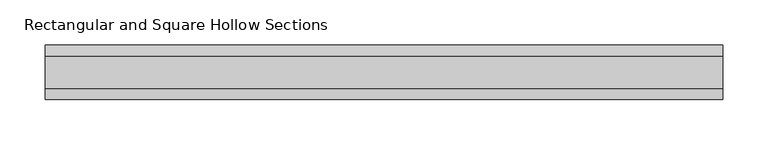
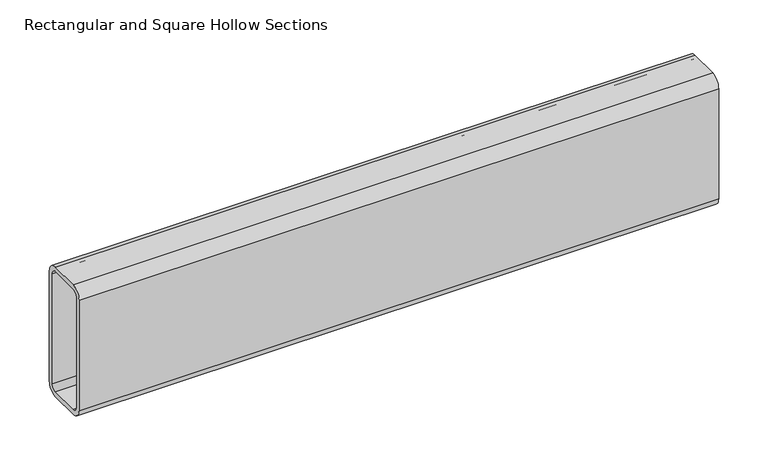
"""IFC4 building model written with IfcOpenShell, lengths in millimetres: beam geometry, Rectangular and Square Hollow Sections : TREC160x60x6."""

import ifcopenshell
import ifcopenshell.guid

model = None  # the IFC model being written
_history = None  # IfcOwnerHistory: only IFC2X3 demands one
_inside = {}  # id of a spatial element -> (the spatial element, [elements in it])
_under = {}  # id of a project, library or spatial element -> (it, [spatial elements below it])
_declared = {}  # id of a project -> (the project, [libraries it declares])
_typed = {}  # id of a type object -> (the type object, [elements of that type])
_made_of = {}  # id of a material, layer set ... -> (it, [elements and type objects made of it])


def new_model(schema):
    """Start an empty IFC model of exactly this schema.

    Asked for "IFC4X3", IfcOpenShell would pick the latest addendum, in which some entities
    have other attributes; the version numbers below select the first issue.
    IFC2X3 requires an IfcOwnerHistory on every rooted entity: one is made here for all.
    """
    global model, _history
    if schema == "IFC4X3":
        model = ifcopenshell.file(schema_version=(4, 3, 0, 0))
    else:
        model = ifcopenshell.file(schema=schema)
    _inside.clear()
    _under.clear()
    _declared.clear()
    _typed.clear()
    _made_of.clear()
    _history = None
    if model.schema == "IFC2X3":
        org = make("IfcOrganization", Name="unknown")
        user = make(
            "IfcPersonAndOrganization",
            ThePerson=make("IfcPerson", FamilyName="unknown"),
            TheOrganization=org,
        )
        app = make(
            "IfcApplication",
            ApplicationDeveloper=org,
            Version="unknown",
            ApplicationFullName="unknown",
            ApplicationIdentifier="unknown",
        )
        _history = make(
            "IfcOwnerHistory",
            OwningUser=user,
            OwningApplication=app,
            ChangeAction="ADDED",
            CreationDate=0,
        )
    return model


def make(cls, **values):
    """One entity of the class cls with the attributes given. An attribute that is None is left unset."""
    return model.create_entity(
        cls, **{name: value for name, value in values.items() if value is not None}
    )


def rooted(cls, **values):
    """An entity with a GlobalId (a new one), such as an element, a storey or a relation."""
    return make(cls, GlobalId=ifcopenshell.guid.new(), OwnerHistory=_history, **values)


def si_unit(unit_type, name, prefix=None):
    """IfcSIUnit, for example si_unit("LENGTHUNIT", "METRE", prefix="MILLI")."""
    return make("IfcSIUnit", UnitType=unit_type, Prefix=prefix, Name=name)


def assignment(units):
    """IfcUnitAssignment: the units of a project."""
    return None if units is None else make("IfcUnitAssignment", Units=units)


def point(xyz):
    """IfcCartesianPoint."""
    return None if xyz is None else make("IfcCartesianPoint", Coordinates=xyz)


def direction(xyz):
    """IfcDirection."""
    return None if xyz is None else make("IfcDirection", DirectionRatios=xyz)


def frame(location, z_axis=None, x_axis=None):
    """IfcAxis2Placement3D, a coordinate frame: its origin and axes. An axis left out is left unset."""
    return make(
        "IfcAxis2Placement3D",
        Location=point(location),
        Axis=direction(z_axis),
        RefDirection=direction(x_axis),
    )


def frame_2d(location, x_axis=None):
    """IfcAxis2Placement2D, a coordinate frame in the plane: its origin and x axis."""
    return make(
        "IfcAxis2Placement2D", Location=point(location), RefDirection=direction(x_axis)
    )


def origin():
    """The frame at (0, 0, 0) with its axes left unset."""
    return frame((0.0, 0.0, 0.0))


def place(relative_to, where):
    """IfcLocalPlacement: puts the frame where relative to a parent placement (None: the world)."""
    return make(
        "IfcLocalPlacement", PlacementRelTo=relative_to, RelativePlacement=where
    )


def context(
    kind, dimensions, precision=None, world=None, true_north=None, identifier=None
):
    """IfcGeometricRepresentationContext, for example the 3D "Model" context."""
    return make(
        "IfcGeometricRepresentationContext",
        ContextIdentifier=identifier,
        ContextType=kind,
        CoordinateSpaceDimension=dimensions,
        Precision=precision,
        WorldCoordinateSystem=world,
        TrueNorth=true_north,
    )


def project(units=None, contexts=None):
    """IfcProject with its units and contexts."""
    return rooted(
        "IfcProject",
        Name="project",
        RepresentationContexts=contexts,
        UnitsInContext=assignment(units),
    )


def spatial(cls, under=None, at=None, **own):
    """A site, building, storey or space (cls), placed at a placement, below another one or the project."""
    s = rooted(cls, ObjectPlacement=at, **own)
    if under is not None:
        _under.setdefault(under.id(), (under, []))[1].append(s)
    return s


def polyline(points):
    """IfcPolyline through the points."""
    return make("IfcPolyline", Points=[point(p) for p in points])


def circle_curve(where, radius):
    """IfcCircle in the frame where."""
    return make("IfcCircle", Position=where, Radius=radius)


def trimmed(basis, trim1, trim2, sense, master):
    """IfcTrimmedCurve: the piece of a basis curve between two trims."""
    return make(
        "IfcTrimmedCurve",
        BasisCurve=basis,
        Trim1=trim1,
        Trim2=trim2,
        SenseAgreement=sense,
        MasterRepresentation=master,
    )


def segment(curve, same_sense, transition):
    """IfcCompositeCurveSegment."""
    return make(
        "IfcCompositeCurveSegment",
        Transition=transition,
        SameSense=same_sense,
        ParentCurve=curve,
    )


def composite_curve(segments, self_intersect=None):
    """IfcCompositeCurve: segments joined end to end."""
    return make("IfcCompositeCurve", Segments=segments, SelfIntersect=self_intersect)


def outline(outer, holes=None, kind="AREA"):
    """IfcArbitraryClosedProfileDef: a profile drawn as a closed curve; with holes, ...WithVoids."""
    if holes is None:
        return make("IfcArbitraryClosedProfileDef", ProfileType=kind, OuterCurve=outer)
    return make(
        "IfcArbitraryProfileDefWithVoids",
        ProfileType=kind,
        OuterCurve=outer,
        InnerCurves=holes,
    )


def extrude(swept, where, along, depth):
    """IfcExtrudedAreaSolid: the profile swept, set in the frame where, extruded along a direction by depth."""
    return make(
        "IfcExtrudedAreaSolid",
        SweptArea=swept,
        Position=where,
        ExtrudedDirection=direction(along),
        Depth=depth,
    )


def shape(context_of_items, identifier, shape_type, items):
    """IfcShapeRepresentation: the items that make up one representation, for example the "Body"."""
    return make(
        "IfcShapeRepresentation",
        ContextOfItems=context_of_items,
        RepresentationIdentifier=identifier,
        RepresentationType=shape_type,
        Items=items,
    )


def source(mapping_origin, context_of_items, identifier, shape_type, items):
    """IfcRepresentationMap: a shape defined once, which mapped items show again and again."""
    return make(
        "IfcRepresentationMap",
        MappingOrigin=mapping_origin,
        MappedRepresentation=shape(context_of_items, identifier, shape_type, items),
    )


def transform(
    local_origin,
    x_axis=None,
    y_axis=None,
    z_axis=None,
    scale=None,
    scale2=None,
    scale3=None,
    uniform=True,
):
    """IfcCartesianTransformationOperator3D, or its non-uniform kind. x_axis, y_axis, z_axis: its Axis1, 2, 3."""
    if uniform:
        return make(
            "IfcCartesianTransformationOperator3D",
            Axis1=direction(x_axis),
            Axis2=direction(y_axis),
            LocalOrigin=point(local_origin),
            Scale=scale,
            Axis3=direction(z_axis),
        )
    return make(
        "IfcCartesianTransformationOperator3DnonUniform",
        Axis1=direction(x_axis),
        Axis2=direction(y_axis),
        LocalOrigin=point(local_origin),
        Scale=scale,
        Axis3=direction(z_axis),
        Scale2=scale2,
        Scale3=scale3,
    )


def mapped(mapping_source, mapping_target):
    """IfcMappedItem: shows the shape of a source again, moved by a transform."""
    return make(
        "IfcMappedItem", MappingSource=mapping_source, MappingTarget=mapping_target
    )


def made_of(thing, what):
    """Note that an element or type object is made of a material, layer set ...; save() writes the relation."""
    if what is not None:
        _made_of.setdefault(what.id(), (what, []))[1].append(thing)
    return thing


def element(
    cls,
    number,
    at=None,
    inside=None,
    cuts=None,
    type_object=None,
    material=None,
    context=None,
    identifier="Body",
    shape_type=None,
    held_by="IfcProductDefinitionShape",
    body=None,
    shapes=None,
    **own,
):
    """One element of the class cls, such as IfcWall. Its Tag is "e" and its number.

    at: its placement. inside: the storey or other place that contains it. cuts: it is an
    opening in that element (IfcRelVoidsElement). A single representation is given by context,
    identifier, shape_type and body (its items); several are given by shapes. held_by: the class
    of the entity that holds the representations. save() writes the other relations.
    """
    e = rooted(cls, Tag="e%d" % number, ObjectPlacement=at, **own)
    if body is not None:
        shapes = [shape(context, identifier, shape_type, body)]
    if shapes is not None:
        e.Representation = make(held_by, Representations=shapes)
    if inside is not None:
        _inside.setdefault(inside.id(), (inside, []))[1].append(e)
    if cuts is not None:
        rooted(
            "IfcRelVoidsElement", RelatingBuildingElement=cuts, RelatedOpeningElement=e
        )
    if type_object is not None:
        _typed.setdefault(type_object.id(), (type_object, []))[1].append(e)
    return made_of(e, material)


def aggregate(whole, parts):
    """IfcRelAggregates: a whole, such as a stair, and the parts it consists of."""
    return rooted("IfcRelAggregates", RelatingObject=whole, RelatedObjects=parts)


def save(model, path):
    """Write the relations noted so far, then the file.

    IfcRelAggregates (storeys below a building ...), IfcRelContainedInSpatialStructure (elements
    in a storey), IfcRelDefinesByType, IfcRelAssociatesMaterial and IfcRelDeclares: one each for
    every whole, place, type object, material and project.
    """
    for whole, parts in _under.values():
        aggregate(whole, parts)
    for where, things in _inside.values():
        rooted(
            "IfcRelContainedInSpatialStructure",
            RelatedElements=things,
            RelatingStructure=where,
        )
    for kind, things in _typed.values():
        rooted("IfcRelDefinesByType", RelatedObjects=things, RelatingType=kind)
    for what, things in _made_of.values():
        rooted("IfcRelAssociatesMaterial", RelatedObjects=things, RelatingMaterial=what)
    for by, libraries in _declared.values():
        rooted("IfcRelDeclares", RelatingContext=by, RelatedDefinitions=libraries)
    model.write(path)


def rectangular_and_square_hollow_sections_a6f610e6(model_context):
    return source(origin(), model_context, "Body", "SweptSolid", [
        extrude(outline(composite_curve([segment(polyline([(30.0, 68.0), (30.0, -68.0)]), True, "CONTINUOUS"), segment(trimmed(circle_curve(frame_2d((18.0, -68.0)), 12.0), [point((30.0, -68.0))], [point((18.0, -80.0))], False, "CARTESIAN"), True, "CONTINUOUS"), segment(polyline([(18.0, -80.0), (-18.0, -80.0)]), True, "CONTINUOUS"), segment(trimmed(circle_curve(frame_2d((-18.0, -68.0)), 12.0), [point((-18.0, -80.0))], [point((-30.0, -68.0))], False, "CARTESIAN"), True, "CONTINUOUS"), segment(polyline([(-30.0, -68.0), (-30.0, 68.0)]), True, "CONTINUOUS"), segment(trimmed(circle_curve(frame_2d((-18.0, 68.0)), 12.0), [point((-30.0, 68.0))], [point((-18.0, 80.0))], False, "CARTESIAN"), True, "CONTINUOUS"), segment(polyline([(-18.0, 80.0), (18.0, 80.0)]), True, "CONTINUOUS"), segment(trimmed(circle_curve(frame_2d((18.0, 68.0)), 12.0), [point((18.0, 80.0))], [point((30.0, 68.0))], False, "CARTESIAN"), True, "CONTINUOUS")], self_intersect=False), holes=[composite_curve([segment(trimmed(circle_curve(frame_2d((-18.0, 68.0)), 6.0), [point((-18.0, 74.0))], [point((-24.0, 68.0))], True, "CARTESIAN"), True, "CONTINUOUS"), segment(polyline([(-24.0, 68.0), (-24.0, -68.0)]), True, "CONTINUOUS"), segment(trimmed(circle_curve(frame_2d((-18.0, -68.0)), 6.0), [point((-24.0, -68.0))], [point((-18.0, -74.0))], True, "CARTESIAN"), True, "CONTINUOUS"), segment(polyline([(-18.0, -74.0), (18.0, -74.0)]), True, "CONTINUOUS"), segment(trimmed(circle_curve(frame_2d((18.0, -68.0)), 6.0), [point((18.0, -74.0))], [point((24.0, -68.0))], True, "CARTESIAN"), True, "CONTINUOUS"), segment(polyline([(24.0, -68.0), (24.0, 68.0)]), True, "CONTINUOUS"), segment(trimmed(circle_curve(frame_2d((18.0, 68.0)), 6.0), [point((24.0, 68.0))], [point((18.0, 74.0))], True, "CARTESIAN"), True, "CONTINUOUS"), segment(polyline([(18.0, 74.0), (-18.0, 74.0)]), True, "CONTINUOUS")], self_intersect=False)]), frame((-493.0, 0.0, 0.0), z_axis=(1.0, 0.0, 0.0), x_axis=(0.0, 1.0, 0.0)), (0.0, 0.0, 1.0), 747.0),
    ])


if __name__ == "__main__":
    model = new_model("IFC4")
    model_context = context("Model", 3, world=origin())
    ifc_project = project(units=[si_unit("LENGTHUNIT", "METRE", prefix="MILLI")], contexts=[model_context])
    site = spatial("IfcSite", under=ifc_project)
    building = spatial("IfcBuilding", under=site)
    placement = place(None, origin())
    rectangular_and_square_hollow_sections_shape = rectangular_and_square_hollow_sections_a6f610e6(model_context)
    element("IfcBeam", 1, ObjectType="Rectangular and Square Hollow Sections : TREC160x60x6", at=placement, inside=building, context=model_context, shape_type="MappedRepresentation", body=[
        mapped(rectangular_and_square_hollow_sections_shape, transform((0.0, 0.0, 0.0), x_axis=(1.0, 0.0, 0.0), y_axis=(0.0, 1.0, 0.0), z_axis=(0.0, 0.0, 1.0))),
    ])
    save(model, "model.ifc")
